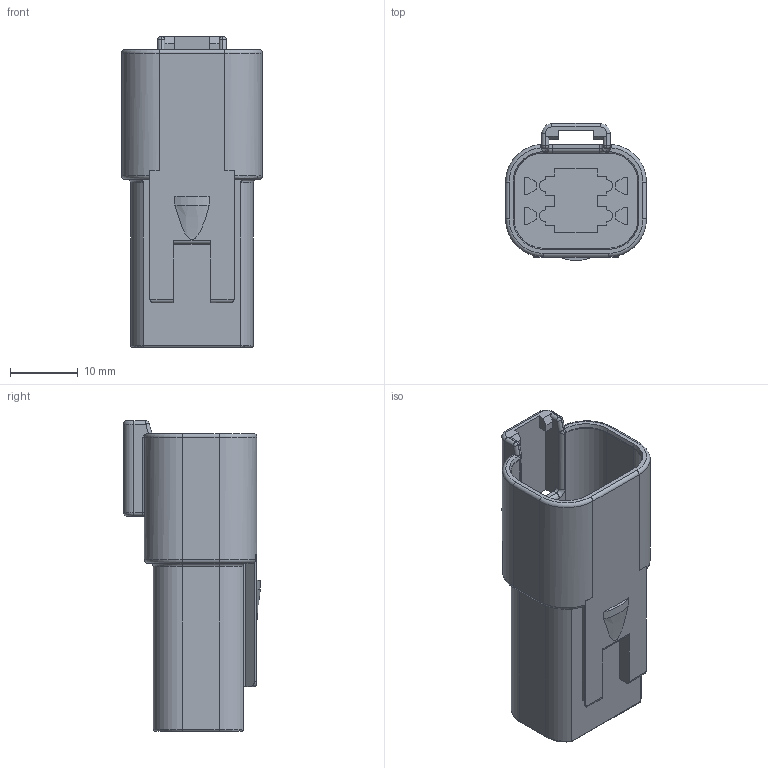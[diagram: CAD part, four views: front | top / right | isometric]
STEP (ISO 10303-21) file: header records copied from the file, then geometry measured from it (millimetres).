
FILE_DESCRIPTION((''),'2;1');
FILE_NAME('C-DT04-4P-C015','2013-08-31T',('workeradm'),('Tyco Electronics Ltd.'),'PRO/ENGINEER BY PARAMETRIC TECHNOLOGY CORPORATION, 2011490','PRO/ENGINEER BY PARAMETRIC TECHNOLOGY CORPORATION, 2011490','');
FILE_SCHEMA(('AUTOMOTIVE_DESIGN { 1 0 10303 214 1 1 1 1 }'));
Length unit declared in the file: millimetre
Products named in the file (1): C-DT04-4P-C015
Bounding box: 20.83 x 20.22 x 45.92 mm (x, y, z)
Volume: 7687.5 mm3; surface area: 4832.4 mm2
Topology: 1 solids, 1 shells, 373 faces, 965 edges, 612 vertices
Faces by surface type: plane 229, cylinder 85, torus 46, cone 5, sphere 4, bspline 4
Entity records: 15146 total; most frequent: CARTESIAN_POINT 2697, ORIENTED_EDGE 1930, DIRECTION 1902, PRESENTATION_STYLE_ASSIGNMENT 966, STYLED_ITEM 966, CURVE_STYLE 965, EDGE_CURVE 965, VECTOR 708
